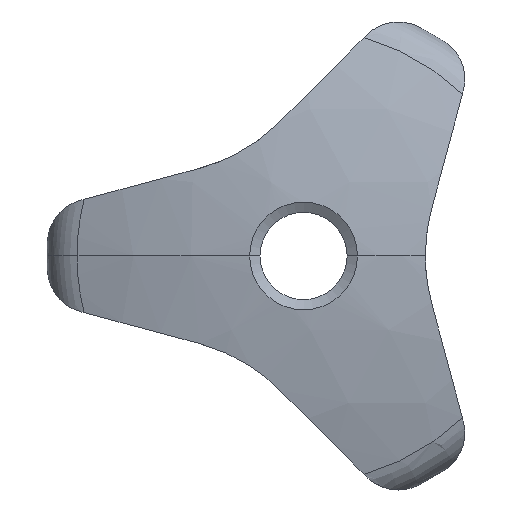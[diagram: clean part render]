
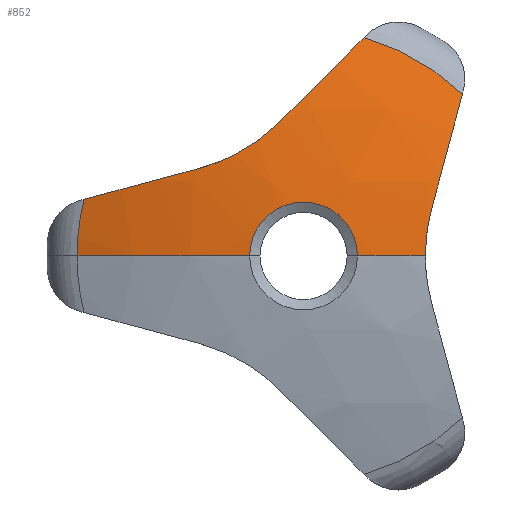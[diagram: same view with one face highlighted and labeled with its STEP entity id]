
A CAD part, left-side view. The second image highlights one B-rep face of the part: STEP entity #852.
In plain terms, the highlighted spherical face has radius 53 mm.
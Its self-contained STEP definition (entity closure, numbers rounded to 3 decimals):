
#8 = CARTESIAN_POINT ( 'NONE',  ( -22.969, 0., 0. ) ) ;
#25 = DIRECTION ( 'NONE',  ( 0., 1., 0. ) ) ;
#32 = CARTESIAN_POINT ( 'NONE',  ( 27., 2.252, 8.403 ) ) ;
#42 = ORIENTED_EDGE ( 'NONE', *, *, #559, .T. ) ;
#67 = CARTESIAN_POINT ( 'NONE',  ( -25.833, 4.2, 0. ) ) ;
#83 = AXIS2_PLACEMENT_3D ( 'NONE', #8, #497, #25 ) ;
#93 = CARTESIAN_POINT ( 'NONE',  ( -22.969, -4.721, 17.024 ) ) ;
#116 = ORIENTED_EDGE ( 'NONE', *, *, #498, .T. ) ;
#156 = ORIENTED_EDGE ( 'NONE', *, *, #1525, .F. ) ;
#159 = CARTESIAN_POINT ( 'NONE',  ( -25.142, -9.5, 0.61 ) ) ;
#177 = DIRECTION ( 'NONE',  ( 0., 0., -1. ) ) ;
#195 = DIRECTION ( 'NONE',  ( 0., -0.707, -0.707 ) ) ;
#212 = CARTESIAN_POINT ( 'NONE',  ( 27., 0., 0. ) ) ;
#215 = ORIENTED_EDGE ( 'NONE', *, *, #269, .T. ) ;
#225 = DIRECTION ( 'NONE',  ( 0., 1., 0. ) ) ;
#239 = DIRECTION ( 'NONE',  ( 0., -0.966, 0.259 ) ) ;
#253 = DIRECTION ( 'NONE',  ( 1., 0., 0. ) ) ;
#264 = CARTESIAN_POINT ( 'NONE',  ( -25.141, 3.68, 8.846 ) ) ;
#269 = EDGE_CURVE ( 'NONE', #1365, #872, #1207, .T. ) ;
#277 = SPHERICAL_SURFACE ( 'NONE', #1062, 53. ) ;
#290 = CARTESIAN_POINT ( 'NONE',  ( 27., 6.151, 6.151 ) ) ;
#309 = CARTESIAN_POINT ( 'NONE',  ( -25.833, 0., 0. ) ) ;
#336 = ORIENTED_EDGE ( 'NONE', *, *, #816, .F. ) ;
#351 = CARTESIAN_POINT ( 'NONE',  ( -22.969, 17.104, 4.423 ) ) ;
#359 = VERTEX_POINT ( 'NONE', #93 ) ;
#364 = CARTESIAN_POINT ( 'NONE',  ( -25.142, -9.5, 0. ) ) ;
#369 = VERTEX_POINT ( 'NONE', #1379 ) ;
#377 = CARTESIAN_POINT ( 'NONE',  ( -25.051, -9.7, 2.436 ) ) ;
#387 = CARTESIAN_POINT ( 'NONE',  ( -25.052, 6.956, 7.184 ) ) ;
#400 = DIRECTION ( 'NONE',  ( 0., 1., 0. ) ) ;
#404 = ORIENTED_EDGE ( 'NONE', *, *, #1322, .T. ) ;
#497 = DIRECTION ( 'NONE',  ( 1., 0., 0. ) ) ;
#498 = EDGE_CURVE ( 'NONE', #505, #579, #749, .T. ) ;
#505 = VERTEX_POINT ( 'NONE', #1068 ) ;
#513 = EDGE_CURVE ( 'NONE', #709, #579, #1486, .T. ) ;
#523 = AXIS2_PLACEMENT_3D ( 'NONE', #212, #1502, #908 ) ;
#559 = EDGE_CURVE ( 'NONE', #872, #922, #1254, .T. ) ;
#579 = VERTEX_POINT ( 'NONE', #351 ) ;
#582 = EDGE_CURVE ( 'NONE', #369, #505, #1315, .T. ) ;
#602 = AXIS2_PLACEMENT_3D ( 'NONE', #770, #177, #1020 ) ;
#620 = CARTESIAN_POINT ( 'NONE',  ( -24.926, 8.127, 6.829 ) ) ;
#647 = VERTEX_POINT ( 'NONE', #1126 ) ;
#653 = EDGE_CURVE ( 'NONE', #1340, #709, #1133, .T. ) ;
#657 = CIRCLE ( 'NONE', #781, 4.2 ) ;
#708 = FACE_OUTER_BOUND ( 'NONE', #758, .T. ) ;
#709 = VERTEX_POINT ( 'NONE', #1484 ) ;
#717 = CARTESIAN_POINT ( 'NONE',  ( -22.969, 0., 0. ) ) ;
#723 = DIRECTION ( 'NONE',  ( 0., 1., 0. ) ) ;
#731 = AXIS2_PLACEMENT_3D ( 'NONE', #1067, #1433, #826 ) ;
#738 = DIRECTION ( 'NONE',  ( 0., -0.259, -0.966 ) ) ;
#749 = CIRCLE ( 'NONE', #1232, 52.281 ) ;
#752 = CARTESIAN_POINT ( 'NONE',  ( 27., 0., 0. ) ) ;
#755 = CIRCLE ( 'NONE', #731, 52.281 ) ;
#758 = EDGE_LOOP ( 'NONE', ( #156, #215, #42, #855, #336, #404, #1265, #116, #1115, #1294 ) ) ;
#770 = CARTESIAN_POINT ( 'NONE',  ( 27., 0., 0. ) ) ;
#781 = AXIS2_PLACEMENT_3D ( 'NONE', #309, #1041, #225 ) ;
#816 = EDGE_CURVE ( 'NONE', #359, #647, #1087, .T. ) ;
#826 = DIRECTION ( 'NONE',  ( 0., 0.259, -0.966 ) ) ;
#849 = EDGE_CURVE ( 'NONE', #922, #647, #755, .T. ) ;
#852 = ADVANCED_FACE ( 'NONE', ( #708 ), #277, .T. ) ;
#853 = CARTESIAN_POINT ( 'NONE',  ( -25.124, 5.826, 7.652 ) ) ;
#855 = ORIENTED_EDGE ( 'NONE', *, *, #849, .T. ) ;
#872 = VERTEX_POINT ( 'NONE', #994 ) ;
#881 = DIRECTION ( 'NONE',  ( 0., -0.707, 0.707 ) ) ;
#908 = DIRECTION ( 'NONE',  ( 0., -1., 0. ) ) ;
#922 = VERTEX_POINT ( 'NONE', #1164 ) ;
#994 = CARTESIAN_POINT ( 'NONE',  ( -25.142, -9.5, 0. ) ) ;
#1020 = DIRECTION ( 'NONE',  ( -1., 0., 0. ) ) ;
#1041 = DIRECTION ( 'NONE',  ( -1., 0., 0. ) ) ;
#1062 = AXIS2_PLACEMENT_3D ( 'NONE', #752, #1236, #400 ) ;
#1067 = CARTESIAN_POINT ( 'NONE',  ( 27., -8.403, -2.252 ) ) ;
#1068 = CARTESIAN_POINT ( 'NONE',  ( -24.926, 8.127, 6.829 ) ) ;
#1087 = CIRCLE ( 'NONE', #1109, 17.667 ) ;
#1109 = AXIS2_PLACEMENT_3D ( 'NONE', #717, #253, #723 ) ;
#1115 = ORIENTED_EDGE ( 'NONE', *, *, #513, .F. ) ;
#1126 = CARTESIAN_POINT ( 'NONE',  ( -22.969, -12.383, 12.601 ) ) ;
#1133 = CIRCLE ( 'NONE', #602, 53. ) ;
#1164 = CARTESIAN_POINT ( 'NONE',  ( -24.926, -9.977, 3.623 ) ) ;
#1190 = CARTESIAN_POINT ( 'NONE',  ( -24.998, 7.535, 6.987 ) ) ;
#1199 = CARTESIAN_POINT ( 'NONE',  ( -24.926, -9.977, 3.623 ) ) ;
#1206 = CARTESIAN_POINT ( 'NONE',  ( -25.07, 2.717, 9.586 ) ) ;
#1207 = CIRCLE ( 'NONE', #523, 53. ) ;
#1232 = AXIS2_PLACEMENT_3D ( 'NONE', #32, #738, #239 ) ;
#1236 = DIRECTION ( 'NONE',  ( 0., 0., 1. ) ) ;
#1254 = B_SPLINE_CURVE_WITH_KNOTS ( 'NONE', 3,
 ( #364, #159, #1451, #377, #1552, #1199 ),
 .UNSPECIFIED., .F., .F.,
 ( 4, 2, 4 ),
 ( 0.004, 0.005, 0.007 ),
 .UNSPECIFIED. ) ;
#1265 = ORIENTED_EDGE ( 'NONE', *, *, #582, .T. ) ;
#1294 = ORIENTED_EDGE ( 'NONE', *, *, #653, .F. ) ;
#1315 = B_SPLINE_CURVE_WITH_KNOTS ( 'NONE', 3,
 ( #1337, #1206, #264, #1458, #853, #387, #1190, #620 ),
 .UNSPECIFIED., .F., .F.,
 ( 4, 2, 2, 4 ),
 ( 0., 0.004, 0.005, 0.007 ),
 .UNSPECIFIED. ) ;
#1322 = EDGE_CURVE ( 'NONE', #359, #369, #1396, .T. ) ;
#1337 = CARTESIAN_POINT ( 'NONE',  ( -24.926, 1.851, 10.452 ) ) ;
#1340 = VERTEX_POINT ( 'NONE', #67 ) ;
#1365 = VERTEX_POINT ( 'NONE', #1482 ) ;
#1379 = CARTESIAN_POINT ( 'NONE',  ( -24.926, 1.851, 10.452 ) ) ;
#1396 = CIRCLE ( 'NONE', #1493, 52.281 ) ;
#1433 = DIRECTION ( 'NONE',  ( 0., 0.966, 0.259 ) ) ;
#1451 = CARTESIAN_POINT ( 'NONE',  ( -25.123, -9.541, 1.227 ) ) ;
#1458 = CARTESIAN_POINT ( 'NONE',  ( -25.142, 5.27, 7.926 ) ) ;
#1482 = CARTESIAN_POINT ( 'NONE',  ( -25.833, -4.2, 0. ) ) ;
#1484 = CARTESIAN_POINT ( 'NONE',  ( -22.969, 17.667, 0. ) ) ;
#1486 = CIRCLE ( 'NONE', #83, 17.667 ) ;
#1493 = AXIS2_PLACEMENT_3D ( 'NONE', #290, #195, #881 ) ;
#1502 = DIRECTION ( 'NONE',  ( 0., 0., 1. ) ) ;
#1525 = EDGE_CURVE ( 'NONE', #1365, #1340, #657, .T. ) ;
#1552 = CARTESIAN_POINT ( 'NONE',  ( -24.998, -9.819, 3.033 ) ) ;
